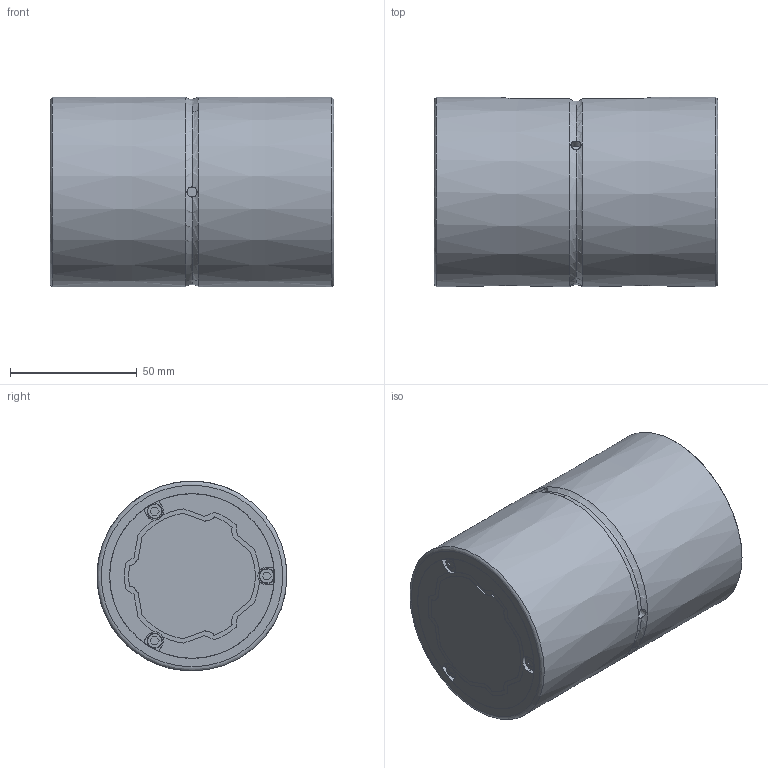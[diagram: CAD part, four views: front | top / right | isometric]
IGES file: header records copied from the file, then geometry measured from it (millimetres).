
Start section: Data from Parasolid IGES Translator 26.0.171, Copyright(c) 2006 Siemens PLM Software. All Rights Reserved.
Global section: file name: SLS50L1112(00).igs; native system: By Siemens PLM Incorporated; preprocessor: XPlus GENERIC/IGES 26.0.171; author: Noname; organization: Noname; date: 20240523.114702; units: millimetre
Bounding box: 112 x 75 x 75 mm (x, y, z)
Surface area: 72558.6 mm2 (no closed solid volume)
Topology: 0 solids, 0 shells, 261 faces, 1454 edges, 1438 vertices
Faces by surface type: revolution 133, extrusion 128
